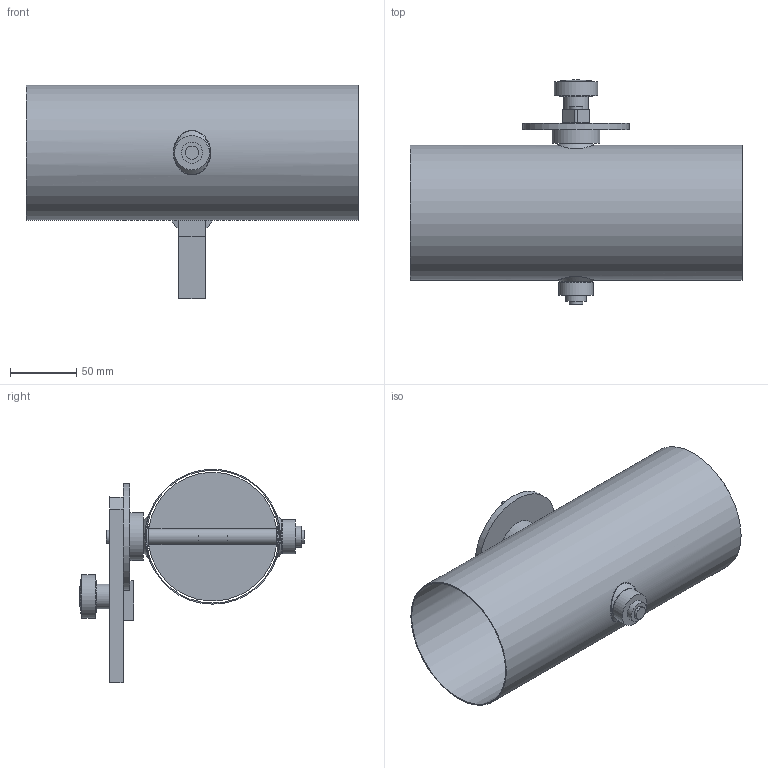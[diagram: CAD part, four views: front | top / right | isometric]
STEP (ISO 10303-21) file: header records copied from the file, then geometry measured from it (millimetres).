
FILE_DESCRIPTION(/* description */ (''),/* implementation_level */ '2;1');
FILE_NAME(/* name */ '',/* time_stamp */ '2023-03-10T15:15:39+01:00',/* author */ (''),/* organization */ (''),/* preprocessor_version */ 'ST-DEVELOPER v11',/* originating_system */ 'SIEMENS UGS NX 6.0',/* authorisation */ '');
FILE_SCHEMA (('CONFIG_CONTROL_DESIGN'));
Length unit declared in the file: millimetre
Products named in the file (1): d.ga8B38arqk
Bounding box: 250 x 169.17 x 160.8 mm (x, y, z)
Volume: 165766.4 mm3; surface area: 214310.3 mm2
Topology: 12 solids, 12 shells, 92 faces, 190 edges, 131 vertices
Faces by surface type: plane 46, cylinder 32, cone 4, bspline 4, torus 4, sphere 2
Full cylindrical faces by diameter (mm): 4.2 x1, 5 x1, 6 x1, 10 x5, 15 x3, 15.85 x2, 16.2 x2, 18.5 x1, 24 x2, 25 x1, 26 x1, 32.5 x1, 36 x1, 80 x1, 100 x1, 101.6 x1
Entity records: 2842 total; most frequent: CARTESIAN_POINT 1005, DIRECTION 374, ORIENTED_EDGE 264, AXIS2_PLACEMENT_3D 161, EDGE_LOOP 160, EDGE_CURVE 132, FACE_BOUND 130, VERTEX_POINT 110
